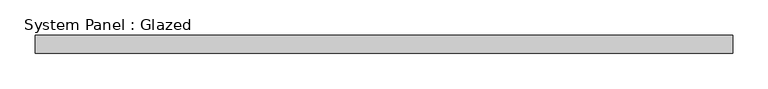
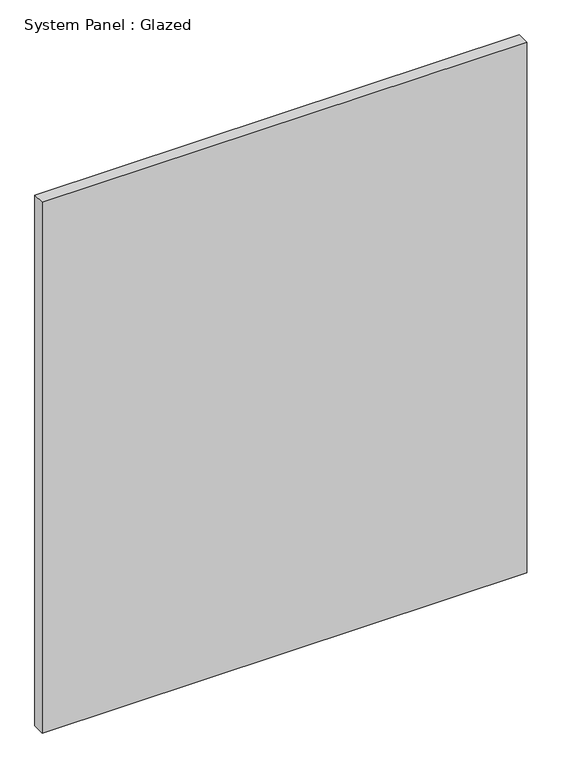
"""IFC4 building model written with IfcOpenShell, lengths in millimetres: plate geometry, System Panel : Glazed."""

import ifcopenshell
import ifcopenshell.guid

model = None  # the IFC model being written
_history = None  # IfcOwnerHistory: only IFC2X3 demands one
_inside = {}  # id of a spatial element -> (the spatial element, [elements in it])
_under = {}  # id of a project, library or spatial element -> (it, [spatial elements below it])
_declared = {}  # id of a project -> (the project, [libraries it declares])
_typed = {}  # id of a type object -> (the type object, [elements of that type])
_made_of = {}  # id of a material, layer set ... -> (it, [elements and type objects made of it])


def new_model(schema):
    """Start an empty IFC model of exactly this schema.

    Asked for "IFC4X3", IfcOpenShell would pick the latest addendum, in which some entities
    have other attributes; the version numbers below select the first issue.
    IFC2X3 requires an IfcOwnerHistory on every rooted entity: one is made here for all.
    """
    global model, _history
    if schema == "IFC4X3":
        model = ifcopenshell.file(schema_version=(4, 3, 0, 0))
    else:
        model = ifcopenshell.file(schema=schema)
    _inside.clear()
    _under.clear()
    _declared.clear()
    _typed.clear()
    _made_of.clear()
    _history = None
    if model.schema == "IFC2X3":
        org = make("IfcOrganization", Name="unknown")
        user = make(
            "IfcPersonAndOrganization",
            ThePerson=make("IfcPerson", FamilyName="unknown"),
            TheOrganization=org,
        )
        app = make(
            "IfcApplication",
            ApplicationDeveloper=org,
            Version="unknown",
            ApplicationFullName="unknown",
            ApplicationIdentifier="unknown",
        )
        _history = make(
            "IfcOwnerHistory",
            OwningUser=user,
            OwningApplication=app,
            ChangeAction="ADDED",
            CreationDate=0,
        )
    return model


def make(cls, **values):
    """One entity of the class cls with the attributes given. An attribute that is None is left unset."""
    return model.create_entity(
        cls, **{name: value for name, value in values.items() if value is not None}
    )


def rooted(cls, **values):
    """An entity with a GlobalId (a new one), such as an element, a storey or a relation."""
    return make(cls, GlobalId=ifcopenshell.guid.new(), OwnerHistory=_history, **values)


def si_unit(unit_type, name, prefix=None):
    """IfcSIUnit, for example si_unit("LENGTHUNIT", "METRE", prefix="MILLI")."""
    return make("IfcSIUnit", UnitType=unit_type, Prefix=prefix, Name=name)


def assignment(units):
    """IfcUnitAssignment: the units of a project."""
    return None if units is None else make("IfcUnitAssignment", Units=units)


def point(xyz):
    """IfcCartesianPoint."""
    return None if xyz is None else make("IfcCartesianPoint", Coordinates=xyz)


def direction(xyz):
    """IfcDirection."""
    return None if xyz is None else make("IfcDirection", DirectionRatios=xyz)


def frame(location, z_axis=None, x_axis=None):
    """IfcAxis2Placement3D, a coordinate frame: its origin and axes. An axis left out is left unset."""
    return make(
        "IfcAxis2Placement3D",
        Location=point(location),
        Axis=direction(z_axis),
        RefDirection=direction(x_axis),
    )


def origin():
    """The frame at (0, 0, 0) with its axes left unset."""
    return frame((0.0, 0.0, 0.0))


def origin_with_axes():
    """The frame at (0, 0, 0) with the z axis (0, 0, 1) and the x axis (1, 0, 0) written out."""
    return frame((0.0, 0.0, 0.0), z_axis=(0.0, 0.0, 1.0), x_axis=(1.0, 0.0, 0.0))


def place(relative_to, where):
    """IfcLocalPlacement: puts the frame where relative to a parent placement (None: the world)."""
    return make(
        "IfcLocalPlacement", PlacementRelTo=relative_to, RelativePlacement=where
    )


def context(
    kind, dimensions, precision=None, world=None, true_north=None, identifier=None
):
    """IfcGeometricRepresentationContext, for example the 3D "Model" context."""
    return make(
        "IfcGeometricRepresentationContext",
        ContextIdentifier=identifier,
        ContextType=kind,
        CoordinateSpaceDimension=dimensions,
        Precision=precision,
        WorldCoordinateSystem=world,
        TrueNorth=true_north,
    )


def project(units=None, contexts=None):
    """IfcProject with its units and contexts."""
    return rooted(
        "IfcProject",
        Name="project",
        RepresentationContexts=contexts,
        UnitsInContext=assignment(units),
    )


def spatial(cls, under=None, at=None, **own):
    """A site, building, storey or space (cls), placed at a placement, below another one or the project."""
    s = rooted(cls, ObjectPlacement=at, **own)
    if under is not None:
        _under.setdefault(under.id(), (under, []))[1].append(s)
    return s


def polyline(points):
    """IfcPolyline through the points."""
    return make("IfcPolyline", Points=[point(p) for p in points])


def outline(outer, holes=None, kind="AREA"):
    """IfcArbitraryClosedProfileDef: a profile drawn as a closed curve; with holes, ...WithVoids."""
    if holes is None:
        return make("IfcArbitraryClosedProfileDef", ProfileType=kind, OuterCurve=outer)
    return make(
        "IfcArbitraryProfileDefWithVoids",
        ProfileType=kind,
        OuterCurve=outer,
        InnerCurves=holes,
    )


def extrude(swept, where, along, depth):
    """IfcExtrudedAreaSolid: the profile swept, set in the frame where, extruded along a direction by depth."""
    return make(
        "IfcExtrudedAreaSolid",
        SweptArea=swept,
        Position=where,
        ExtrudedDirection=direction(along),
        Depth=depth,
    )


def shape(context_of_items, identifier, shape_type, items):
    """IfcShapeRepresentation: the items that make up one representation, for example the "Body"."""
    return make(
        "IfcShapeRepresentation",
        ContextOfItems=context_of_items,
        RepresentationIdentifier=identifier,
        RepresentationType=shape_type,
        Items=items,
    )


def source(mapping_origin, context_of_items, identifier, shape_type, items):
    """IfcRepresentationMap: a shape defined once, which mapped items show again and again."""
    return make(
        "IfcRepresentationMap",
        MappingOrigin=mapping_origin,
        MappedRepresentation=shape(context_of_items, identifier, shape_type, items),
    )


def transform(
    local_origin,
    x_axis=None,
    y_axis=None,
    z_axis=None,
    scale=None,
    scale2=None,
    scale3=None,
    uniform=True,
):
    """IfcCartesianTransformationOperator3D, or its non-uniform kind. x_axis, y_axis, z_axis: its Axis1, 2, 3."""
    if uniform:
        return make(
            "IfcCartesianTransformationOperator3D",
            Axis1=direction(x_axis),
            Axis2=direction(y_axis),
            LocalOrigin=point(local_origin),
            Scale=scale,
            Axis3=direction(z_axis),
        )
    return make(
        "IfcCartesianTransformationOperator3DnonUniform",
        Axis1=direction(x_axis),
        Axis2=direction(y_axis),
        LocalOrigin=point(local_origin),
        Scale=scale,
        Axis3=direction(z_axis),
        Scale2=scale2,
        Scale3=scale3,
    )


def mapped(mapping_source, mapping_target):
    """IfcMappedItem: shows the shape of a source again, moved by a transform."""
    return make(
        "IfcMappedItem", MappingSource=mapping_source, MappingTarget=mapping_target
    )


def made_of(thing, what):
    """Note that an element or type object is made of a material, layer set ...; save() writes the relation."""
    if what is not None:
        _made_of.setdefault(what.id(), (what, []))[1].append(thing)
    return thing


def element(
    cls,
    number,
    at=None,
    inside=None,
    cuts=None,
    type_object=None,
    material=None,
    context=None,
    identifier="Body",
    shape_type=None,
    held_by="IfcProductDefinitionShape",
    body=None,
    shapes=None,
    **own,
):
    """One element of the class cls, such as IfcWall. Its Tag is "e" and its number.

    at: its placement. inside: the storey or other place that contains it. cuts: it is an
    opening in that element (IfcRelVoidsElement). A single representation is given by context,
    identifier, shape_type and body (its items); several are given by shapes. held_by: the class
    of the entity that holds the representations. save() writes the other relations.
    """
    e = rooted(cls, Tag="e%d" % number, ObjectPlacement=at, **own)
    if body is not None:
        shapes = [shape(context, identifier, shape_type, body)]
    if shapes is not None:
        e.Representation = make(held_by, Representations=shapes)
    if inside is not None:
        _inside.setdefault(inside.id(), (inside, []))[1].append(e)
    if cuts is not None:
        rooted(
            "IfcRelVoidsElement", RelatingBuildingElement=cuts, RelatedOpeningElement=e
        )
    if type_object is not None:
        _typed.setdefault(type_object.id(), (type_object, []))[1].append(e)
    return made_of(e, material)


def aggregate(whole, parts):
    """IfcRelAggregates: a whole, such as a stair, and the parts it consists of."""
    return rooted("IfcRelAggregates", RelatingObject=whole, RelatedObjects=parts)


def save(model, path):
    """Write the relations noted so far, then the file.

    IfcRelAggregates (storeys below a building ...), IfcRelContainedInSpatialStructure (elements
    in a storey), IfcRelDefinesByType, IfcRelAssociatesMaterial and IfcRelDeclares: one each for
    every whole, place, type object, material and project.
    """
    for whole, parts in _under.values():
        aggregate(whole, parts)
    for where, things in _inside.values():
        rooted(
            "IfcRelContainedInSpatialStructure",
            RelatedElements=things,
            RelatingStructure=where,
        )
    for kind, things in _typed.values():
        rooted("IfcRelDefinesByType", RelatedObjects=things, RelatingType=kind)
    for what, things in _made_of.values():
        rooted("IfcRelAssociatesMaterial", RelatedObjects=things, RelatingMaterial=what)
    for by, libraries in _declared.values():
        rooted("IfcRelDeclares", RelatingContext=by, RelatedDefinitions=libraries)
    model.write(path)


def system_panel_glazed_14bd28ca(model_context):
    return source(origin(), model_context, "Body", "SweptSolid", [
        extrude(outline(polyline([(494.7708333, -44.45), (-494.7708333, -44.45), (-494.7708333, -19.05), (494.7708333, -19.05), (494.7708333, -44.45)])), origin_with_axes(), (0.0, 0.0, 1.0), 1145.6475583),
    ])


if __name__ == "__main__":
    model = new_model("IFC4")
    model_context = context("Model", 3, world=origin())
    ifc_project = project(units=[si_unit("LENGTHUNIT", "METRE", prefix="MILLI")], contexts=[model_context])
    site = spatial("IfcSite", under=ifc_project)
    building = spatial("IfcBuilding", under=site)
    placement = place(None, origin())
    system_panel_glazed_shape = system_panel_glazed_14bd28ca(model_context)
    element("IfcPlate", 1, ObjectType="System Panel : Glazed", at=placement, inside=building, context=model_context, shape_type="MappedRepresentation", body=[
        mapped(system_panel_glazed_shape, transform((0.0, 0.0, 0.0), x_axis=(1.0, 0.0, 0.0), y_axis=(0.0, 1.0, 0.0), z_axis=(0.0, 0.0, 1.0))),
    ])
    save(model, "model.ifc")
